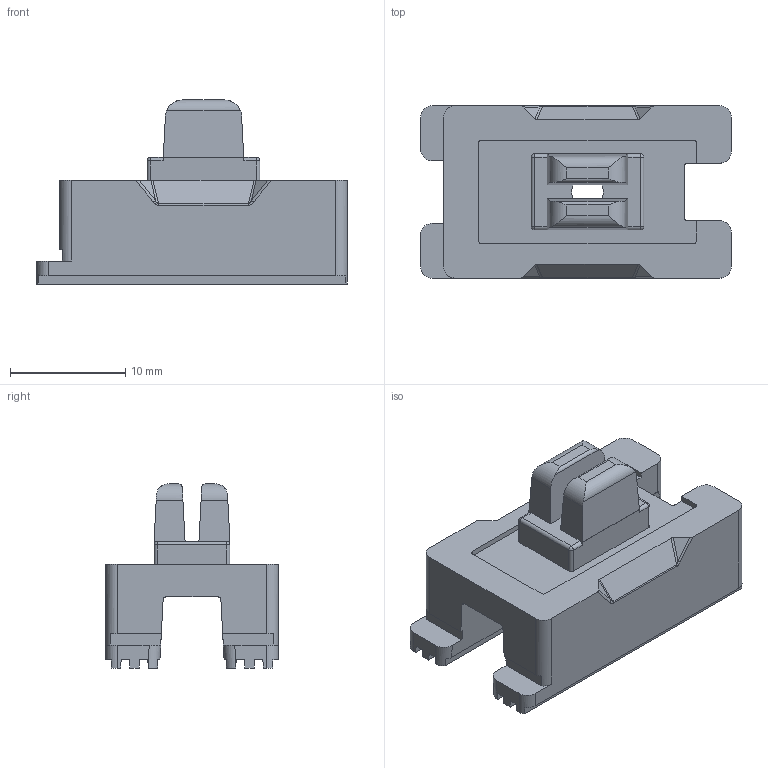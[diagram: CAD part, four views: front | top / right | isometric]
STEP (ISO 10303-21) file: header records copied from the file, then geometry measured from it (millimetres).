
FILE_DESCRIPTION(('STEP AP214'),'1');
FILE_NAME('SS25.stp','2020-04-10T04:29:05',(' '),(' '),'Spatial InterOp 3D',' ',' ');
FILE_SCHEMA(('automotive_design'));
Length unit declared in the file: millimetre
Products named in the file (3): _______; パーツ17; パーツ2
Assembly tree (2 placements, depth 2):
  _______
    パーツ17
    パーツ2
Bounding box: 27 x 15 x 16 mm (x, y, z)
Volume: 2540.4 mm3; surface area: 2243.9 mm2
Topology: 2 solids, 2 shells, 158 faces, 436 edges, 280 vertices
Faces by surface type: plane 96, cylinder 51, sphere 4, bspline 4, cone 3
Full cylindrical faces by diameter (mm): 7.1 x1
Entity records: 6492 total; most frequent: CARTESIAN_POINT 1127, DIRECTION 854, ORIENTED_EDGE 848, EDGE_CURVE 424, AXIS2_PLACEMENT_3D 291, VERTEX_POINT 276, LINE 272, VECTOR 272
